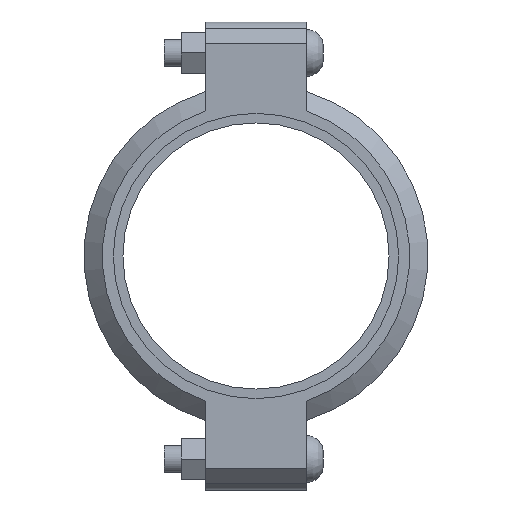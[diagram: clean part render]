
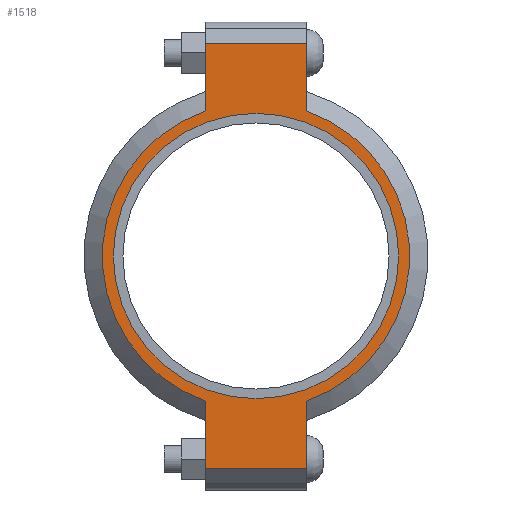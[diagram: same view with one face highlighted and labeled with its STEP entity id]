
A CAD part, left-side view. The second image highlights one B-rep face of the part: STEP entity #1518.
In plain terms, the highlighted planar face has unit normal (-1, 0, 0) as drawn and (0, 0, 1) by its records, which use the part's own axes.
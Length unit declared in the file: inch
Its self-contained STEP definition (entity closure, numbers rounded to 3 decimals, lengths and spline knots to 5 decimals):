
#142=LINE('',#2658,#235);
#150=LINE('',#2694,#243);
#157=LINE('',#2715,#250);
#166=LINE('',#2747,#259);
#167=LINE('',#2751,#260);
#168=LINE('',#2753,#261);
#235=VECTOR('',#2174,0.3937);
#243=VECTOR('',#2190,0.3937);
#250=VECTOR('',#2209,0.3937);
#259=VECTOR('',#2234,0.3937);
#260=VECTOR('',#2239,0.3937);
#261=VECTOR('',#2240,0.3937);
#317=FACE_BOUND('',#495,.T.);
#389=FACE_OUTER_BOUND('',#494,.T.);
#494=EDGE_LOOP('',(#1259,#1260,#1261,#1262,#1263,#1264,#1265,#1266));
#495=EDGE_LOOP('',(#1267));
#567=CIRCLE('',#1746,3.25);
#593=CIRCLE('',#1805,3.5);
#594=CIRCLE('',#1806,3.5);
#659=VERTEX_POINT('',#2474);
#702=VERTEX_POINT('',#2655);
#703=VERTEX_POINT('',#2657);
#714=VERTEX_POINT('',#2689);
#715=VERTEX_POINT('',#2693);
#722=VERTEX_POINT('',#2712);
#723=VERTEX_POINT('',#2714);
#733=VERTEX_POINT('',#2750);
#734=VERTEX_POINT('',#2752);
#815=EDGE_CURVE('',#659,#659,#567,.T.);
#876=EDGE_CURVE('',#703,#702,#142,.T.);
#890=EDGE_CURVE('',#715,#714,#150,.T.);
#900=EDGE_CURVE('',#723,#722,#157,.T.);
#915=EDGE_CURVE('',#715,#702,#166,.T.);
#916=EDGE_CURVE('',#714,#723,#593,.T.);
#917=EDGE_CURVE('',#733,#722,#167,.T.);
#918=EDGE_CURVE('',#733,#734,#168,.T.);
#919=EDGE_CURVE('',#734,#703,#594,.T.);
#1259=ORIENTED_EDGE('',*,*,#915,.F.);
#1260=ORIENTED_EDGE('',*,*,#890,.T.);
#1261=ORIENTED_EDGE('',*,*,#916,.T.);
#1262=ORIENTED_EDGE('',*,*,#900,.T.);
#1263=ORIENTED_EDGE('',*,*,#917,.F.);
#1264=ORIENTED_EDGE('',*,*,#918,.T.);
#1265=ORIENTED_EDGE('',*,*,#919,.T.);
#1266=ORIENTED_EDGE('',*,*,#876,.T.);
#1267=ORIENTED_EDGE('',*,*,#815,.T.);
#1360=PLANE('',#1804);
#1518=ADVANCED_FACE('',(#389,#317),#1360,.T.);
#1746=AXIS2_PLACEMENT_3D('',#2476,#2050,#2051);
#1804=AXIS2_PLACEMENT_3D('',#2748,#2235,#2236);
#1805=AXIS2_PLACEMENT_3D('',#2749,#2237,#2238);
#1806=AXIS2_PLACEMENT_3D('',#2754,#2241,#2242);
#2050=DIRECTION('center_axis',(0.,0.,-1.));
#2051=DIRECTION('ref_axis',(1.,0.,0.));
#2174=DIRECTION('',(1.,0.,0.));
#2190=DIRECTION('',(-1.,0.,0.));
#2209=DIRECTION('',(-1.,0.,0.));
#2234=DIRECTION('',(0.,-1.,0.));
#2235=DIRECTION('center_axis',(0.,0.,1.));
#2236=DIRECTION('ref_axis',(-1.,0.,0.));
#2237=DIRECTION('center_axis',(0.,0.,1.));
#2238=DIRECTION('ref_axis',(1.,0.,0.));
#2239=DIRECTION('',(0.,1.,0.));
#2240=DIRECTION('',(1.,0.,0.));
#2241=DIRECTION('center_axis',(0.,0.,1.));
#2242=DIRECTION('ref_axis',(1.,0.,0.));
#2474=CARTESIAN_POINT('',(-3.25,0.,1.04));
#2476=CARTESIAN_POINT('Origin',(0.,0.,1.04));
#2655=CARTESIAN_POINT('',(4.83,-1.156,1.04));
#2657=CARTESIAN_POINT('',(3.30358,-1.156,1.04));
#2658=CARTESIAN_POINT('',(5.33,-1.156,1.04));
#2689=CARTESIAN_POINT('',(3.30358,1.156,1.04));
#2693=CARTESIAN_POINT('',(4.83,1.156,1.04));
#2694=CARTESIAN_POINT('',(-5.33,1.156,1.04));
#2712=CARTESIAN_POINT('',(-4.83,1.156,1.04));
#2714=CARTESIAN_POINT('',(-3.30358,1.156,1.04));
#2715=CARTESIAN_POINT('',(-5.33,1.156,1.04));
#2747=CARTESIAN_POINT('',(4.83,-0.578,1.04));
#2748=CARTESIAN_POINT('Origin',(0.,0.,
1.04));
#2749=CARTESIAN_POINT('Origin',(0.,0.,1.04));
#2750=CARTESIAN_POINT('',(-4.83,-1.156,1.04));
#2751=CARTESIAN_POINT('',(-4.83,0.578,1.04));
#2752=CARTESIAN_POINT('',(-3.30358,-1.156,1.04));
#2753=CARTESIAN_POINT('',(5.33,-1.156,1.04));
#2754=CARTESIAN_POINT('Origin',(0.,0.,1.04));
